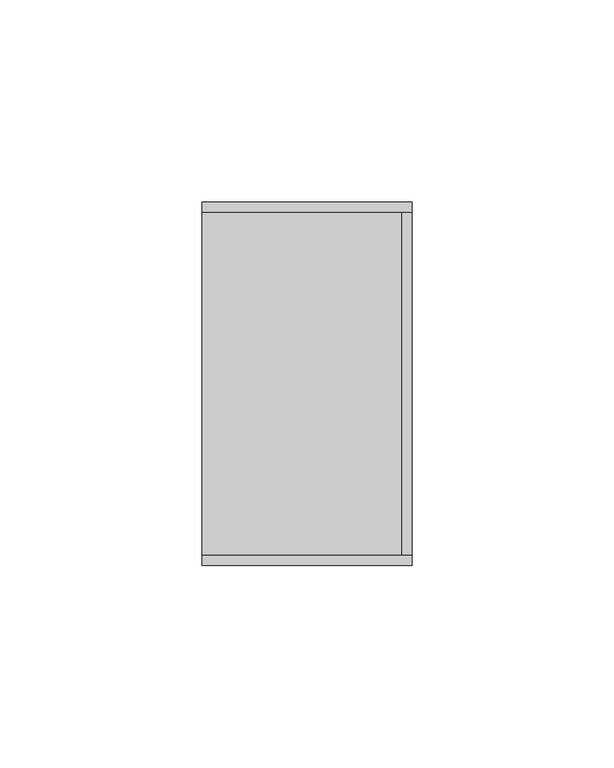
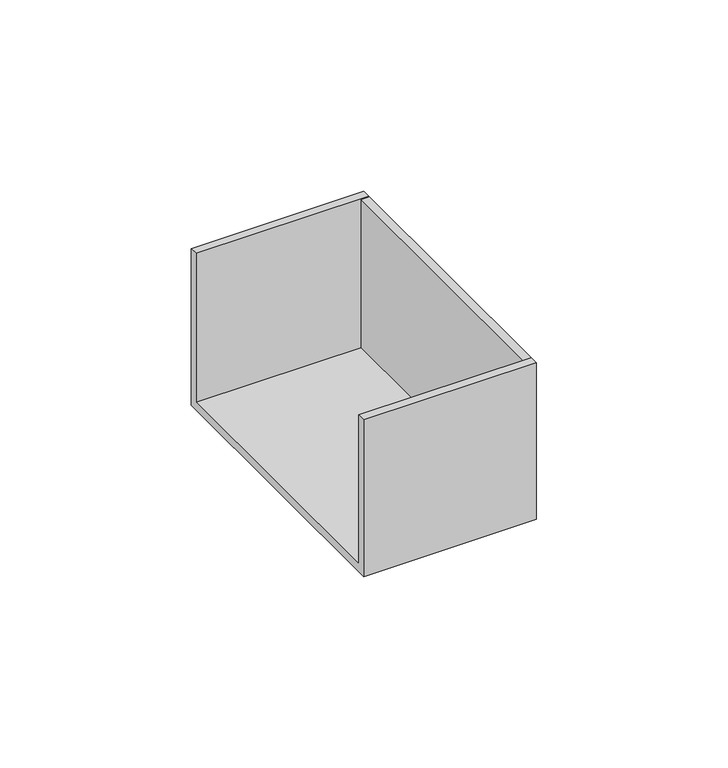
"""IFC4 building model written with IfcOpenShell, lengths in millimetres: cable carrier fitting geometry, КНС_ЗаглушкаТорцевая_ILF_DKC : Заглушка."""

from ifc_helpers import new_model, si_unit, frame, origin, place, context, project, spatial, polyline, outline, extrude, source, transform, mapped, element, save


def cable_carrier_fitting_83c308d7(model_context):
    return source(origin(), model_context, "Body", "SweptSolid", [
        extrude(outline(polyline([(45.0, -25.0), (-45.0, -25.0), (-45.0, 25.0), (-42.5, 25.0), (-42.5, -22.5), (42.5, -22.5), (42.5, 25.0), (45.0, 25.0), (45.0, -25.0)])), frame((-52.0, 0.0, 0.0), z_axis=(1.0, 0.0, 0.0), x_axis=(0.0, 1.0, 0.0)), (0.0, 0.0, 1.0), 52.0),
        extrude(outline(polyline([(0.0, 42.5), (0.0, -42.5), (-2.5, -42.5), (-2.5, 42.5), (0.0, 42.5)])), frame((0.0, 0.0, -25.0), z_axis=(0.0, 0.0, 1.0), x_axis=(1.0, 0.0, 0.0)), (0.0, 0.0, 1.0), 50.0),
    ])


if __name__ == "__main__":
    model = new_model("IFC4")
    model_context = context("Model", 3, world=origin())
    ifc_project = project(units=[si_unit("LENGTHUNIT", "METRE", prefix="MILLI")], contexts=[model_context])
    site = spatial("IfcSite", under=ifc_project)
    building = spatial("IfcBuilding", under=site)
    placement = place(None, origin())
    cable_carrier_fitting_shape = cable_carrier_fitting_83c308d7(model_context)
    element("IfcCableCarrierFitting", 1, ObjectType="КНС_ЗаглушкаТорцевая_ILF_DKC : Заглушка", at=placement, inside=building, context=model_context, shape_type="MappedRepresentation", body=[
        mapped(cable_carrier_fitting_shape, transform((0.0, 0.0, 0.0), x_axis=(1.0, 0.0, 0.0), y_axis=(0.0, 1.0, 0.0), z_axis=(0.0, 0.0, 1.0))),
    ])
    save(model, "model.ifc")
